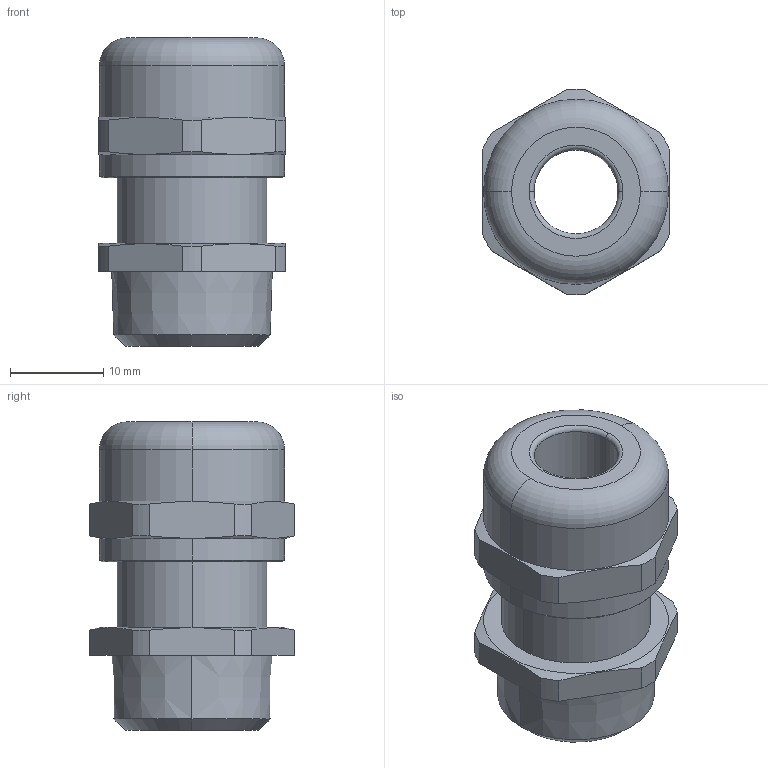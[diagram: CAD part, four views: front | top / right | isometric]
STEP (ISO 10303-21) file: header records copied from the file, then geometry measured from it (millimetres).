
FILE_DESCRIPTION (( 'STEP AP203' ), '1' );
FILE_NAME ('50.138-EMV-R.STEP', '2006-10-10T11:20:15', ( ' ' ), ( '' ), 'SwSTEP 2.0', 'SolidWorks 2005278', '' );
FILE_SCHEMA (( 'CONFIG_CONTROL_DESIGN' ));
Length unit declared in the file: millimetre
Products named in the file (1): 50.138-EMV-R
Bounding box: 20 x 21.99 x 33 mm (x, y, z)
Volume: 6732.8 mm3; surface area: 3537.1 mm2
Topology: 1 solids, 1 shells, 90 faces, 234 edges, 152 vertices
Faces by surface type: plane 54, cylinder 20, cone 12, torus 4
Entity records: 2857 total; most frequent: CARTESIAN_POINT 561, ORIENTED_EDGE 468, DIRECTION 450, EDGE_CURVE 234, VERTEX_POINT 152, VECTOR 152, LINE 152, AXIS2_PLACEMENT_3D 149
